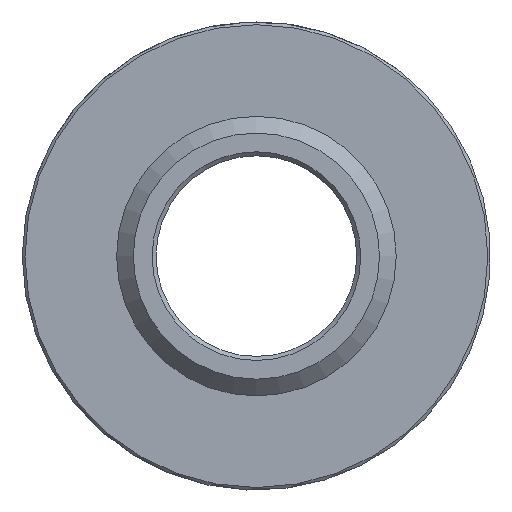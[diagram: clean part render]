
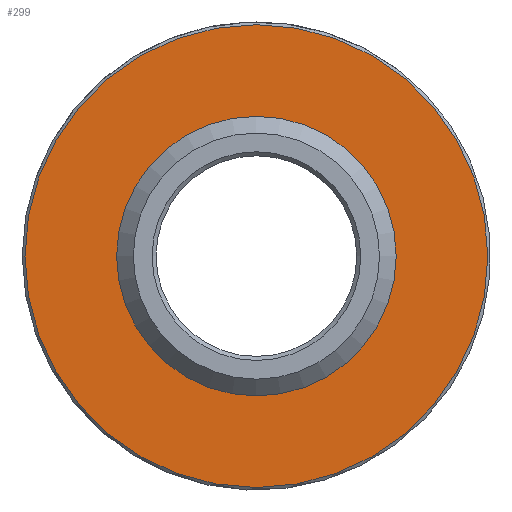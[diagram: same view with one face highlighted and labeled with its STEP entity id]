
A CAD part, front view. The second image highlights one B-rep face of the part: STEP entity #299.
In plain terms, the highlighted planar face has unit normal (0, -1, 0).
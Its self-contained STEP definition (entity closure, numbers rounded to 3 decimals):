
#71=FACE_BOUND('',#106,.T.);
#84=FACE_OUTER_BOUND('',#105,.T.);
#105=EDGE_LOOP('',(#256));
#106=EDGE_LOOP('',(#257,#258));
#129=CIRCLE('',#354,17.3);
#130=CIRCLE('',#356,9.25);
#131=CIRCLE('',#357,9.25);
#156=VERTEX_POINT('',#526);
#157=VERTEX_POINT('',#530);
#158=VERTEX_POINT('',#531);
#191=EDGE_CURVE('',#156,#156,#129,.T.);
#192=EDGE_CURVE('',#157,#158,#130,.T.);
#193=EDGE_CURVE('',#158,#157,#131,.T.);
#256=ORIENTED_EDGE('',*,*,#191,.F.);
#257=ORIENTED_EDGE('',*,*,#192,.T.);
#258=ORIENTED_EDGE('',*,*,#193,.T.);
#286=PLANE('',#355);
#299=ADVANCED_FACE('',(#84,#71),#286,.T.);
#354=AXIS2_PLACEMENT_3D('',#528,#438,#439);
#355=AXIS2_PLACEMENT_3D('',#529,#440,#441);
#356=AXIS2_PLACEMENT_3D('',#532,#442,#443);
#357=AXIS2_PLACEMENT_3D('',#533,#444,#445);
#438=DIRECTION('center_axis',(0.,1.,0.));
#439=DIRECTION('ref_axis',(1.,0.,0.));
#440=DIRECTION('center_axis',(0.,-1.,0.));
#441=DIRECTION('ref_axis',(0.,0.,-1.));
#442=DIRECTION('center_axis',(0.,1.,0.));
#443=DIRECTION('ref_axis',(1.,0.,0.));
#444=DIRECTION('center_axis',(0.,1.,0.));
#445=DIRECTION('ref_axis',(1.,0.,0.));
#526=CARTESIAN_POINT('',(-17.3,12.,0.));
#528=CARTESIAN_POINT('Origin',(0.,12.,0.));
#529=CARTESIAN_POINT('Origin',(-17.5,12.,0.));
#530=CARTESIAN_POINT('',(-9.25,12.,0.));
#531=CARTESIAN_POINT('',(9.25,12.,0.));
#532=CARTESIAN_POINT('Origin',(0.,12.,0.));
#533=CARTESIAN_POINT('Origin',(0.,12.,0.));
